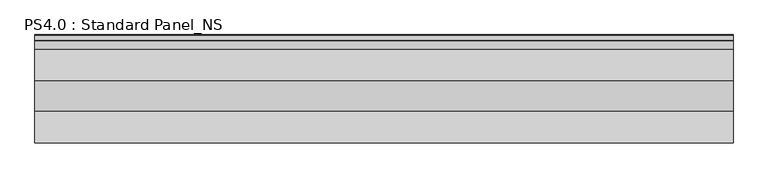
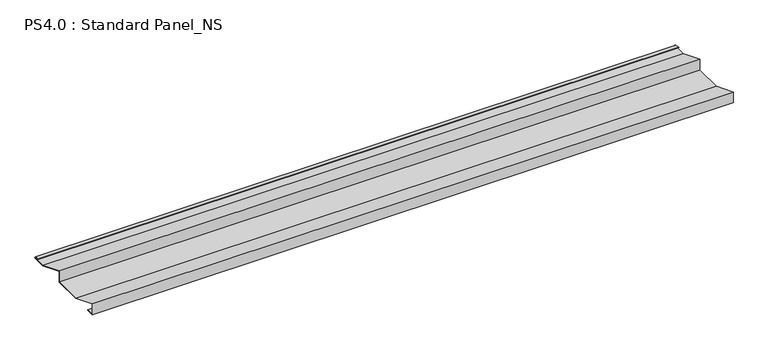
"""IFC4 building model written with IfcOpenShell, lengths in millimetres: proxy geometry, PS4.0 : Standard Panel_NS."""

from ifc_helpers import new_model, si_unit, point, frame, frame_2d, origin, place, context, project, spatial, polyline, circle_curve, trimmed, segment, composite_curve, outline, extrude, source, transform, mapped, element, save


def ps4_0_standard_panel_ns_dd7b3ee9(model_context):
    return source(origin(), model_context, "Body", "SweptSolid", [
        extrude(outline(composite_curve([segment(polyline([(0.0, 0.0), (0.0, 38.0), (95.1944825, -0.4828759), (188.0, -0.4828759), (188.0, 38.0), (281.9966446, 0.0), (324.8317866, 0.0)]), True, "CONTINUOUS"), segment(trimmed(circle_curve(frame_2d((324.3094696, 0.9153551)), 1.0538928), [point((324.8317866, 0.0))], [point((324.8448691, 1.8231201))], True, "CARTESIAN"), True, "CONTINUOUS"), segment(polyline([(324.8448691, 1.8231201), (308.5989911, 4.94103), (308.7874714, 5.923107), (325.1748462, 2.778041)]), True, "CONTINUOUS"), segment(trimmed(circle_curve(frame_2d((324.3094696, 0.9153551)), 2.0538928), [point((325.1748462, 2.778041))], [point((325.0510156, -1.0))], False, "CARTESIAN"), True, "CONTINUOUS"), segment(polyline([(325.0510156, -1.0), (281.8021557, -1.0), (189.0, 36.5171043), (189.0, -1.4828759), (95.0, -1.4828759), (1.0, 36.5171241), (1.0, 1.0), (25.0, 1.0), (25.0, 0.0), (0.0, 0.0)]), True, "CONTINUOUS")], self_intersect=False)), frame((0.0, 0.0, 0.0), z_axis=(1.0, 0.0, 0.0), x_axis=(0.0, 1.0, 0.0)), (0.0, 0.0, 1.0), 2100.0),
    ])


if __name__ == "__main__":
    model = new_model("IFC4")
    model_context = context("Model", 3, world=origin())
    ifc_project = project(units=[si_unit("LENGTHUNIT", "METRE", prefix="MILLI")], contexts=[model_context])
    site = spatial("IfcSite", under=ifc_project)
    building = spatial("IfcBuilding", under=site)
    placement = place(None, origin())
    ps4_0_standard_panel_ns_shape = ps4_0_standard_panel_ns_dd7b3ee9(model_context)
    element("IfcBuildingElementProxy", 1, Name="PS4.0 : Standard Panel_NS", ObjectType="PS4.0 : Standard Panel_NS", at=placement, inside=building, context=model_context, shape_type="MappedRepresentation", body=[
        mapped(ps4_0_standard_panel_ns_shape, transform((0.0, 0.0, 0.0), x_axis=(1.0, 0.0, 0.0), y_axis=(0.0, 1.0, 0.0), z_axis=(0.0, 0.0, 1.0))),
    ])
    save(model, "model.ifc")
